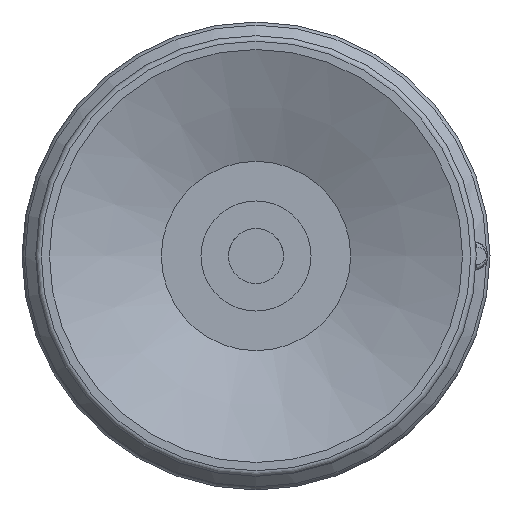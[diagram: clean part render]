
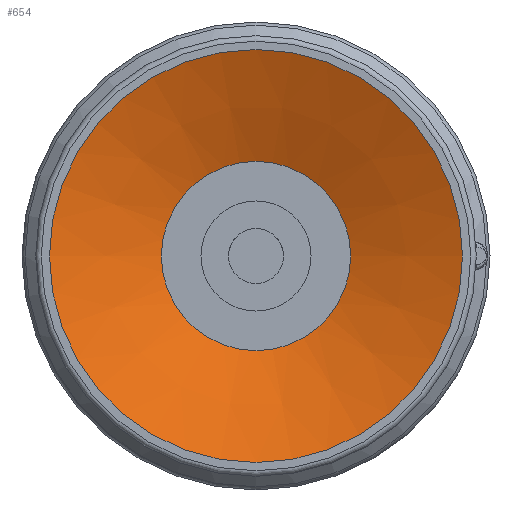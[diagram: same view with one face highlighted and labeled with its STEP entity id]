
A CAD part, front view. The second image highlights one B-rep face of the part: STEP entity #654.
In plain terms, the highlighted conical face has half-angle 67.5 degrees and reference radius 3.437 mm.
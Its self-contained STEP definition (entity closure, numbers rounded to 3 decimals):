
#654=ADVANCED_FACE('',(#955,#956),#957,.F.);
#955=FACE_BOUND('',#2269,.T.);
#956=FACE_OUTER_BOUND('',#2270,.T.);
#957=CONICAL_SURFACE('',#2271,3.437,1.178);
#2269=EDGE_LOOP('',(#3018));
#2270=EDGE_LOOP('',(#3019));
#2271=AXIS2_PLACEMENT_3D('',#3020,#3021,#3022);
#3018=ORIENTED_EDGE('',*,*,#3231,.F.);
#3019=ORIENTED_EDGE('',*,*,#3219,.T.);
#3020=CARTESIAN_POINT('',(0.0,0.0,1.683));
#3021=DIRECTION('',(0.0,0.,-1.0));
#3022=DIRECTION('',(0.0,1.0,0.));
#3219=EDGE_CURVE('',#3558,#3558,#3559,.T.);
#3231=EDGE_CURVE('',#3582,#3582,#3583,.T.);
#3558=VERTEX_POINT('',#4507);
#3559=CIRCLE('',#4508,7.5);
#3582=VERTEX_POINT('',#4531);
#3583=CIRCLE('',#4532,3.437);
#4507=CARTESIAN_POINT('',(-7.5,0.0,0.));
#4508=AXIS2_PLACEMENT_3D('',#4805,#4806,#4807);
#4531=CARTESIAN_POINT('',(-3.437,0.0,1.683));
#4532=AXIS2_PLACEMENT_3D('',#4841,#4842,#4843);
#4805=CARTESIAN_POINT('',(0.0,0.0,0.));
#4806=DIRECTION('',(0.0,0.,-1.0));
#4807=DIRECTION('',(0.0,1.0,0.));
#4841=CARTESIAN_POINT('',(0.0,0.0,1.683));
#4842=DIRECTION('',(0.0,0.,-1.0));
#4843=DIRECTION('',(0.0,1.0,0.));
